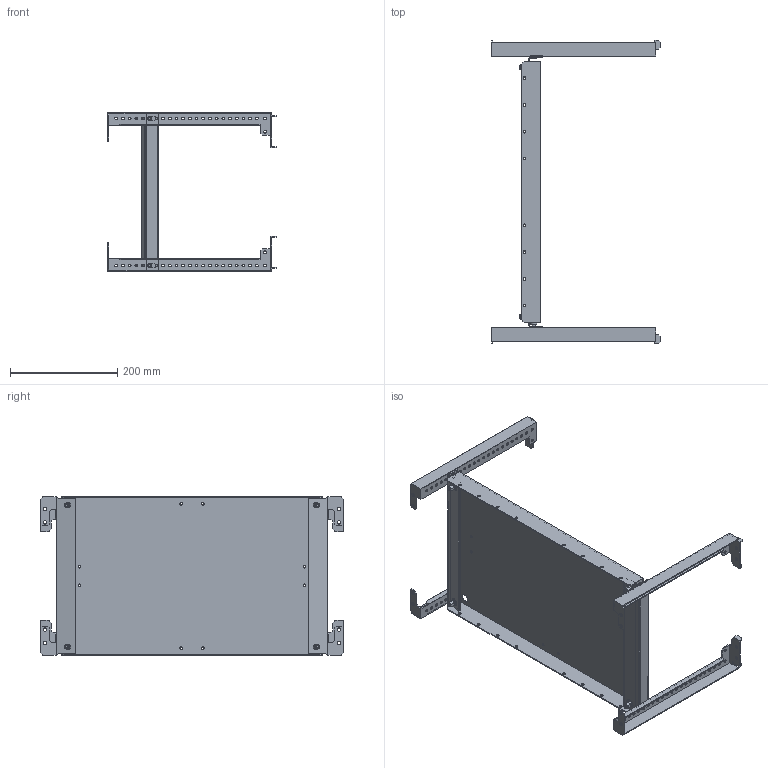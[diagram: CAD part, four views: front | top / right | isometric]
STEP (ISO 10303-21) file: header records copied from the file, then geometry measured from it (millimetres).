
FILE_DESCRIPTION (( 'STEP AP214' ), '1' );
FILE_NAME ('FO-00-MPU-030-060 Ïàíåëü ìîíòàæíàÿ óíèâåðñàëüíàÿ 300?600 ìì.STEP', '2025-07-16T07:06:21', ( '' ), ( '' ), 'SwSTEP 2.0', 'SolidWorks 2023', '' );
FILE_SCHEMA (( 'AUTOMOTIVE_DESIGN' ));
Length unit declared in the file: millimetre
Products named in the file (5): Панель монтажная универсальная 300×600; Винты DIN 912 4xM6x20 300x600; Траверса горизонтальнаяD; Траверса горизонтальная; FO-00-MPU-030-060 Панель монтажная универсальная 300×600 мм
Assembly tree (6 placements, depth 2):
  FO-00-MPU-030-060 Панель монтажная универсальная 300×600 мм
    Панель монтажная универсальная 300×600
    Траверса горизонтальная  x2
    Траверса горизонтальнаяD  x2
    Винты DIN 912 4xM6x20 300x600
Bounding box: 314.53 x 565.63 x 297 mm (x, y, z)
Volume: 653030.6 mm3; surface area: 670509.2 mm2
Topology: 9 solids, 13 shells, 1010 faces, 2744 edges, 1808 vertices
Faces by surface type: cylinder 468, plane 454, cone 56, torus 32
Entity records: 26087 total; most frequent: CARTESIAN_POINT 5387, DIRECTION 4400, ORIENTED_EDGE 4156, EDGE_CURVE 2078, AXIS2_PLACEMENT_3D 1609, VERTEX_POINT 1364, LINE 1182, VECTOR 1182
